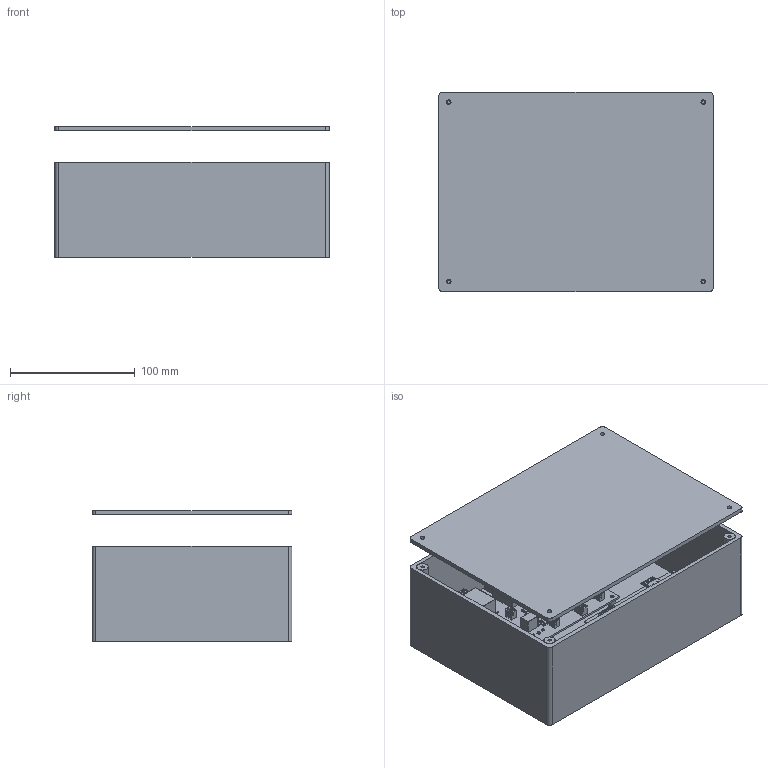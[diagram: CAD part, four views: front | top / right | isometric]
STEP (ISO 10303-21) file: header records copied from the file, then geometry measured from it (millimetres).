
FILE_DESCRIPTION(('Open CASCADE Model'),'2;1');
FILE_NAME('Open CASCADE Shape Model','2026-10-04T14:57:16',('Author'),( 'Open CASCADE'),'Open CASCADE STEP processor 7.8','Open CASCADE 7.8' ,'Unknown');
FILE_SCHEMA(('AUTOMOTIVE_DESIGN { 1 0 10303 214 1 1 1 1 }'));
Length unit declared in the file: millimetre
Products named in the file (13): A01_DRY_BOX_OPEN_BENCH; SLS_PA2210FR_shell; removable_lid_exploded; main_native_step; ui_native_step; nylon_post_1; nylon_post_2; nylon_post_3; nylon_post_4; nylon_post_5; nylon_post_6; nylon_post_7; nylon_post_8
Assembly tree (12 placements, depth 2):
  A01_DRY_BOX_OPEN_BENCH
    SLS_PA2210FR_shell
    removable_lid_exploded
    main_native_step
    ui_native_step
    nylon_post_1
    nylon_post_2
    nylon_post_3
    nylon_post_4
    nylon_post_5
    nylon_post_6
    nylon_post_7
    nylon_post_8
Bounding box: 220 x 160 x 105 mm (x, y, z)
Volume: 511487.5 mm3; surface area: 322735.7 mm2
Topology: 225 solids, 226 shells, 8096 faces, 20616 edges, 13137 vertices
Faces by surface type: plane 5667, cylinder 1996, bspline 280, sphere 124, torus 26, cone 2, revolution 1
Full cylindrical faces by diameter (mm): 0.2 x1, 0.33 x6, 0.5 x3, 0.9 x2, 0.95 x24, 1 x52, 1.1 x24, 1.3 x21, 2 x1, 2.5 x12, 3.2 x10, 3.5 x6, 3.6 x12, 3.8 x6, 4 x6, 6 x8, 8 x2, 12 x1
Entity records: 526209 total; most frequent: CARTESIAN_POINT 109797, DIRECTION 77880, LINE 52257, VECTOR 52257, ORIENTED_EDGE 41000, PCURVE 40984, DEFINITIONAL_REPRESENTATION 40984, EDGE_CURVE 20492
